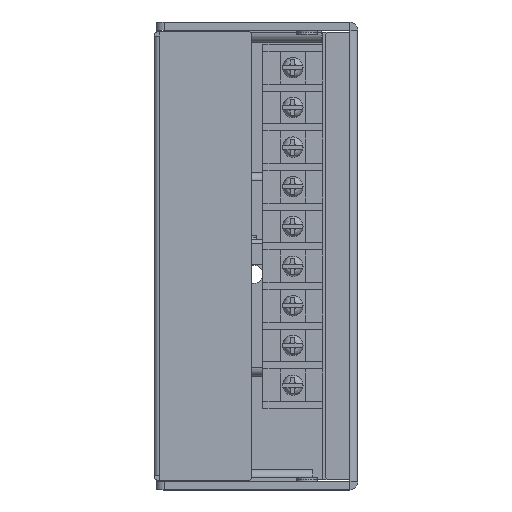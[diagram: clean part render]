
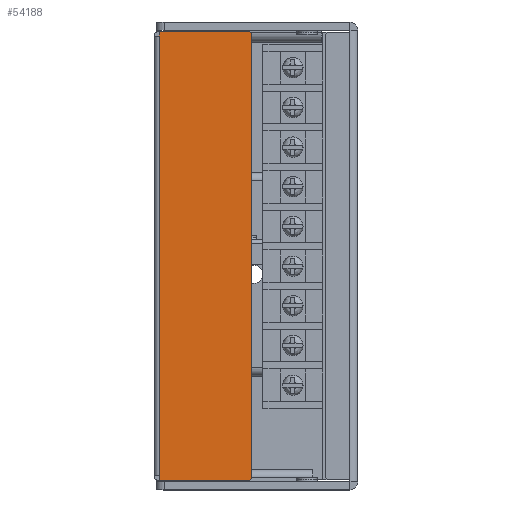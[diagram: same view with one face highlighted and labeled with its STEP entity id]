
A CAD part, left-side view. The second image highlights one B-rep face of the part: STEP entity #54188.
In plain terms, the highlighted planar face has unit normal (-1, 0, 0) as drawn and (0, 1, 0) by its records, which use the part's own axes.
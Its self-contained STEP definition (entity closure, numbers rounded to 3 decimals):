
#52963=CARTESIAN_POINT('',(448.835,188.15,-1.2));
#52964=VERTEX_POINT('',#52963);
#52982=CARTESIAN_POINT('',(556.905,188.15,-1.2));
#52983=VERTEX_POINT('',#52982);
#52991=CARTESIAN_POINT('',(556.905,188.15,-1.2));
#52992=DIRECTION('',(-1.0,0.0,0.0));
#52993=VECTOR('',#52992,108.07);
#52994=LINE('',#52991,#52993);
#52995=EDGE_CURVE('',#52983,#52964,#52994,.T.);
#53668=CARTESIAN_POINT('',(558.135,188.15,-1.2));
#53669=VERTEX_POINT('',#53668);
#53676=CARTESIAN_POINT('',(556.905,188.15,-1.2));
#53677=DIRECTION('',(1.0,0.0,0.0));
#53678=VECTOR('',#53677,1.23);
#53679=LINE('',#53676,#53678);
#53680=EDGE_CURVE('',#52983,#53669,#53679,.T.);
#54131=CARTESIAN_POINT('',(558.135,188.15,0.0));
#54132=DIRECTION('',(0.0,1.0,0.0));
#54133=DIRECTION('',(0.0,0.0,1.0));
#54134=AXIS2_PLACEMENT_3D('',#54131,#54132,#54133);
#54135=PLANE('',#54134);
#54136=ORIENTED_EDGE('',*,*,#52995,.F.);
#54137=ORIENTED_EDGE('',*,*,#53680,.T.);
#54138=CARTESIAN_POINT('',(558.135,188.15,-23.));
#54139=VERTEX_POINT('',#54138);
#54140=CARTESIAN_POINT('',(558.135,188.15,-1.2));
#54141=DIRECTION('',(0.0,0.0,-1.0));
#54142=VECTOR('',#54141,21.8);
#54143=LINE('',#54140,#54142);
#54144=EDGE_CURVE('',#53669,#54139,#54143,.T.);
#54145=ORIENTED_EDGE('',*,*,#54144,.T.);
#54146=CARTESIAN_POINT('',(557.135,188.15,-24.));
#54147=VERTEX_POINT('',#54146);
#54148=CARTESIAN_POINT('',(557.135,188.15,-23.));
#54149=DIRECTION('',(0.0,1.0,0.0));
#54150=DIRECTION('',(1.0,0.0,0.));
#54151=AXIS2_PLACEMENT_3D('',#54148,#54149,#54150);
#54152=CIRCLE('',#54151,1.0);
#54153=EDGE_CURVE('',#54139,#54147,#54152,.T.);
#54154=ORIENTED_EDGE('',*,*,#54153,.T.);
#54155=CARTESIAN_POINT('',(448.635,188.15,-24.));
#54156=VERTEX_POINT('',#54155);
#54157=CARTESIAN_POINT('',(557.135,188.15,-24.));
#54158=DIRECTION('',(-1.0,0.0,0.0));
#54159=VECTOR('',#54158,108.5);
#54160=LINE('',#54157,#54159);
#54161=EDGE_CURVE('',#54147,#54156,#54160,.T.);
#54162=ORIENTED_EDGE('',*,*,#54161,.T.);
#54163=CARTESIAN_POINT('',(447.635,188.15,-23.));
#54164=VERTEX_POINT('',#54163);
#54165=CARTESIAN_POINT('',(448.635,188.15,-23.));
#54166=DIRECTION('',(0.0,1.0,0.0));
#54167=DIRECTION('',(0.,0.0,-1.0));
#54168=AXIS2_PLACEMENT_3D('',#54165,#54166,#54167);
#54169=CIRCLE('',#54168,1.0);
#54170=EDGE_CURVE('',#54156,#54164,#54169,.T.);
#54171=ORIENTED_EDGE('',*,*,#54170,.T.);
#54172=CARTESIAN_POINT('',(447.635,188.15,-1.2));
#54173=VERTEX_POINT('',#54172);
#54174=CARTESIAN_POINT('',(447.635,188.15,-1.2));
#54175=DIRECTION('',(0.0,0.0,-1.0));
#54176=VECTOR('',#54175,21.8);
#54177=LINE('',#54174,#54176);
#54178=EDGE_CURVE('',#54173,#54164,#54177,.T.);
#54179=ORIENTED_EDGE('',*,*,#54178,.F.);
#54180=CARTESIAN_POINT('',(447.635,188.15,-1.2));
#54181=DIRECTION('',(1.0,0.0,0.0));
#54182=VECTOR('',#54181,1.2);
#54183=LINE('',#54180,#54182);
#54184=EDGE_CURVE('',#54173,#52964,#54183,.T.);
#54185=ORIENTED_EDGE('',*,*,#54184,.T.);
#54186=EDGE_LOOP('',(#54136,#54137,#54145,#54154,#54162,#54171,#54179,#54185));
#54187=FACE_OUTER_BOUND('',#54186,.T.);
#54188=ADVANCED_FACE('',(#54187),#54135,.T.);
